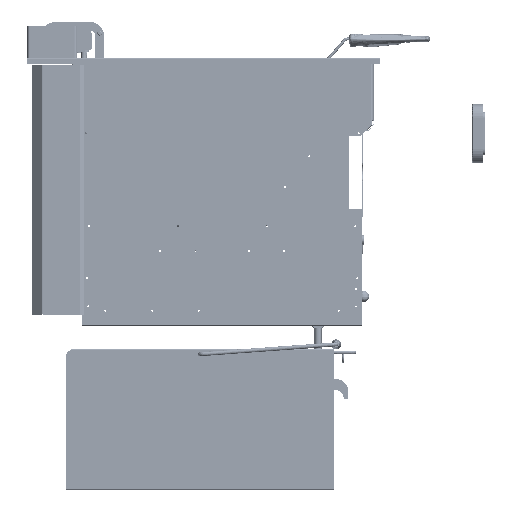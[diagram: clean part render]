
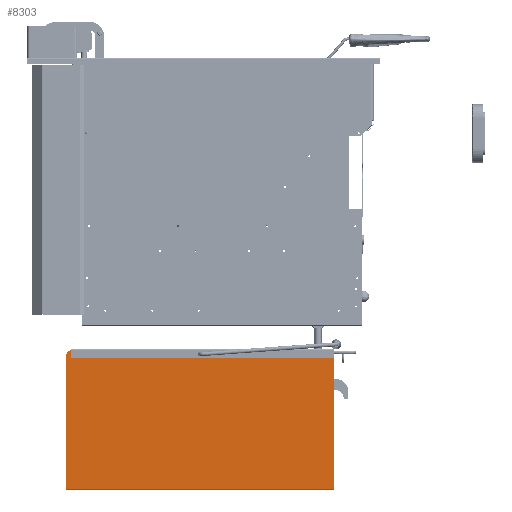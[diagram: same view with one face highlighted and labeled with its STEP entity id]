
A CAD part, left-side view. The second image highlights one B-rep face of the part: STEP entity #8303.
In plain terms, the highlighted planar face has unit normal (-1, 0, 0).
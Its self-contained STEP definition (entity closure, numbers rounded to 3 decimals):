
#1255=FACE_BOUND('',#23554,.T.);
#8303=ADVANCED_FACE('',(#15692,#1255),#120632,.T.);
#15692=FACE_OUTER_BOUND('',#23553,.T.);
#23553=EDGE_LOOP('',(#55887,#55888,#55889,#55890,#55891,#55892,#55893));
#23554=EDGE_LOOP('',(#55894,#55895));
#55887=ORIENTED_EDGE('',*,*,#78374,.F.);
#55888=ORIENTED_EDGE('',*,*,#78454,.F.);
#55889=ORIENTED_EDGE('',*,*,#78367,.F.);
#55890=ORIENTED_EDGE('',*,*,#78375,.F.);
#55891=ORIENTED_EDGE('',*,*,#78376,.F.);
#55892=ORIENTED_EDGE('',*,*,#78377,.F.);
#55893=ORIENTED_EDGE('',*,*,#78378,.F.);
#55894=ORIENTED_EDGE('',*,*,#78348,.T.);
#55895=ORIENTED_EDGE('',*,*,#78410,.F.);
#78348=EDGE_CURVE('',#116517,#116518,#99042,.T.);
#78367=EDGE_CURVE('',#116537,#116539,#91266,.T.);
#78374=EDGE_CURVE('',#116545,#116546,#91273,.T.);
#78375=EDGE_CURVE('',#116544,#116537,#91274,.T.);
#78376=EDGE_CURVE('',#116547,#116544,#91275,.T.);
#78377=EDGE_CURVE('',#116548,#116547,#91276,.T.);
#78378=EDGE_CURVE('',#116546,#116548,#91277,.T.);
#78410=EDGE_CURVE('',#116517,#116518,#99056,.T.);
#78454=EDGE_CURVE('',#116539,#116545,#99070,.T.);
#91266=B_SPLINE_CURVE_WITH_KNOTS('',1,(#379234,#379235),.UNSPECIFIED.,.F.,
 .F.,(2,2),(0.,227.),.UNSPECIFIED.);
#91273=B_SPLINE_CURVE_WITH_KNOTS('',1,(#379248,#379249),.UNSPECIFIED.,.F.,
 .F.,(2,2),(-0.5,0.),.UNSPECIFIED.);
#91274=B_SPLINE_CURVE_WITH_KNOTS('',1,(#379250,#379251),.UNSPECIFIED.,.F.,
 .F.,(2,2),(-455.,0.),.UNSPECIFIED.);
#91275=B_SPLINE_CURVE_WITH_KNOTS('',1,(#379252,#379253),.UNSPECIFIED.,.F.,
 .F.,(2,2),(-236.4,0.),.UNSPECIFIED.);
#91276=B_SPLINE_CURVE_WITH_KNOTS('',1,(#379254,#379255),.UNSPECIFIED.,.F.,
 .F.,(2,2),(-446.5,0.),.UNSPECIFIED.);
#91277=B_SPLINE_CURVE_WITH_KNOTS('',1,(#379256,#379257),.UNSPECIFIED.,.F.,
 .F.,(2,2),(-1.4,0.),.UNSPECIFIED.);
#99042=TRIMMED_CURVE($,#105604,(#379193),(#379194),.T.,.CARTESIAN.);
#99056=TRIMMED_CURVE($,#105618,(#379331),(#379332),.T.,.CARTESIAN.);
#99070=TRIMMED_CURVE($,#105632,(#379433),(#379434),.T.,.CARTESIAN.);
#105604=CIRCLE('',#135180,3.75);
#105618=CIRCLE('',#135194,3.75);
#105632=CIRCLE('',#135208,8.);
#116517=VERTEX_POINT('',#379112);
#116518=VERTEX_POINT('',#379113);
#116537=VERTEX_POINT('',#379132);
#116539=VERTEX_POINT('',#379134);
#116544=VERTEX_POINT('',#379139);
#116545=VERTEX_POINT('',#379140);
#116546=VERTEX_POINT('',#379141);
#116547=VERTEX_POINT('',#379142);
#116548=VERTEX_POINT('',#379143);
#120632=PLANE('',#135136);
#135136=AXIS2_PLACEMENT_3D('',#379064,#152535,$);
#135180=AXIS2_PLACEMENT_3D($,#379192,#152583,#152584);
#135194=AXIS2_PLACEMENT_3D($,#379330,#152611,#152612);
#135208=AXIS2_PLACEMENT_3D($,#379432,#152639,#152640);
#152535=DIRECTION('',(-1.,0.,0.));
#152583=DIRECTION('',(1.,0.,0.));
#152584=DIRECTION('',(0.,-1.,0.));
#152611=DIRECTION('',(-1.,0.,0.));
#152612=DIRECTION('',(0.,-1.,0.));
#152639=DIRECTION('',(1.,0.,0.));
#152640=DIRECTION('',(0.,1.,0.));
#379064=CARTESIAN_POINT('',(-174.,-279.833,93.36));
#379112=CARTESIAN_POINT('',(-174.,-10.582,345.4));
#379113=CARTESIAN_POINT('',(-174.,-3.082,345.4));
#379132=CARTESIAN_POINT('',(-174.,220.668,117.));
#379134=CARTESIAN_POINT('',(-174.,220.668,344.));
#379139=CARTESIAN_POINT('',(-174.,-234.332,117.));
#379140=CARTESIAN_POINT('',(-174.,212.668,352.));
#379141=CARTESIAN_POINT('',(-174.,212.168,352.));
#379142=CARTESIAN_POINT('',(-174.,-234.332,353.4));
#379143=CARTESIAN_POINT('',(-174.,212.168,353.4));
#379192=CARTESIAN_POINT('',(-174.,-6.832,345.4));
#379193=CARTESIAN_POINT('',(-174.,-10.582,345.4));
#379194=CARTESIAN_POINT('',(-174.,-3.082,345.4));
#379234=CARTESIAN_POINT('',(-174.,220.668,117.));
#379235=CARTESIAN_POINT('',(-174.,220.668,344.));
#379248=CARTESIAN_POINT('',(-174.,212.668,352.));
#379249=CARTESIAN_POINT('',(-174.,212.168,352.));
#379250=CARTESIAN_POINT('',(-174.,-234.332,117.));
#379251=CARTESIAN_POINT('',(-174.,220.668,117.));
#379252=CARTESIAN_POINT('',(-174.,-234.332,353.4));
#379253=CARTESIAN_POINT('',(-174.,-234.332,117.));
#379254=CARTESIAN_POINT('',(-174.,212.168,353.4));
#379255=CARTESIAN_POINT('',(-174.,-234.332,353.4));
#379256=CARTESIAN_POINT('',(-174.,212.168,352.));
#379257=CARTESIAN_POINT('',(-174.,212.168,353.4));
#379330=CARTESIAN_POINT('',(-174.,-6.832,345.4));
#379331=CARTESIAN_POINT('',(-174.,-10.582,345.4));
#379332=CARTESIAN_POINT('',(-174.,-3.082,345.4));
#379432=CARTESIAN_POINT('',(-174.,212.668,344.));
#379433=CARTESIAN_POINT('',(-174.,220.668,344.));
#379434=CARTESIAN_POINT('',(-174.,212.668,352.));
